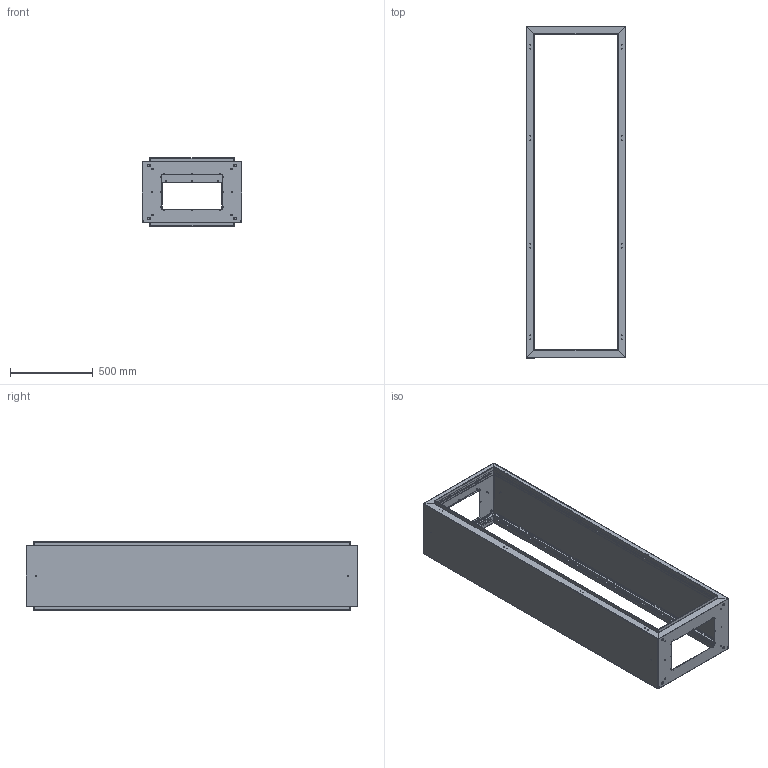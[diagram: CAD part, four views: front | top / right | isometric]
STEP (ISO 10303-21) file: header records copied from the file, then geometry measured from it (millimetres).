
FILE_DESCRIPTION (( 'STEP AP203' ), '1' );
FILE_NAME ('600x2000x400.STEP', '2021-11-11T16:42:53', ( '' ), ( '' ), 'SwSTEP 2.0', 'SolidWorks 2019', '' );
FILE_SCHEMA (( 'CONFIG_CONTROL_DESIGN' ));
Length unit declared in the file: millimetre
Products named in the file (4): Alt Kapak 1,5mm_monoblok_tekkapakrevize_PP 16.1018 600Gx400D ALT; 600x2000x400; Üst Kapak 1,5mm_monoblok_tekkapakrevize_PP 16.1009 600Gx400D šST; Yan Kapak 1,5mm_monoblok_tekkapakrevize_PP 16.1006 - 2000Yx400D YAN
Assembly tree (4 placements, depth 2):
  600x2000x400
    Alt Kapak 1,5mm_monoblok_tekkapakrevize_PP 16.1018 600Gx400D ALT
    Üst Kapak 1,5mm_monoblok_tekkapakrevize_PP 16.1009 600Gx400D šST
    Yan Kapak 1,5mm_monoblok_tekkapakrevize_PP 16.1006 - 2000Yx400D YAN  x2
Bounding box: 600 x 2000 x 412 mm (x, y, z)
Volume: 4721917 mm3; surface area: 6381467.1 mm2
Topology: 4 solids, 4 shells, 5036 faces, 14820 edges, 9800 vertices
Faces by surface type: plane 3276, cylinder 1744, bspline 16
Entity records: 108266 total; most frequent: CARTESIAN_POINT 18863, ORIENTED_EDGE 18352, DIRECTION 17550, EDGE_CURVE 9176, VECTOR 7008, LINE 7008, VERTEX_POINT 6056, AXIS2_PLACEMENT_3D 5271
